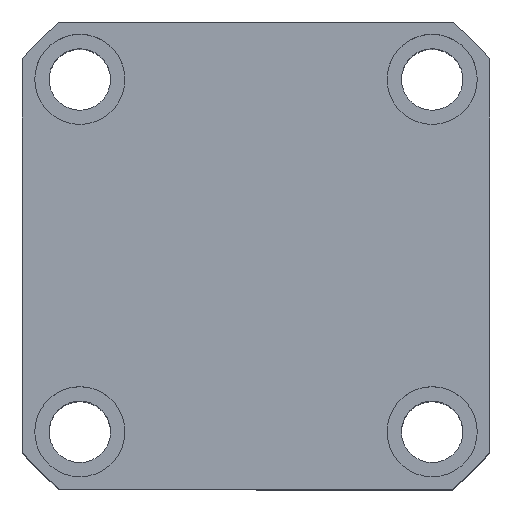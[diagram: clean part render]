
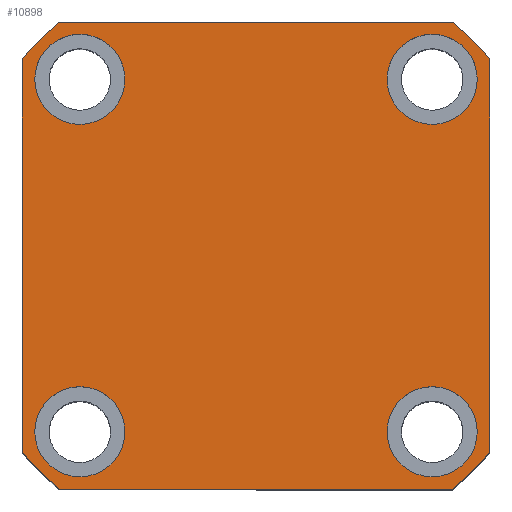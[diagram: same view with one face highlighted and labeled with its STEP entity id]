
A CAD part, top view. The second image highlights one B-rep face of the part: STEP entity #10898.
In plain terms, the highlighted planar face has unit normal (0, 0, 1) as drawn and (0, 0, -1) by its records, which use the part's own axes.
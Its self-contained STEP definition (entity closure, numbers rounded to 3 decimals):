
#315 = DIRECTION ( 'NONE',  ( 1., 0., 0. ) ) ;
#424 = CIRCLE ( 'NONE', #15282, 74.5 ) ;
#705 = ORIENTED_EDGE ( 'NONE', *, *, #17867, .F. ) ;
#1118 = ORIENTED_EDGE ( 'NONE', *, *, #19716, .F. ) ;
#1220 = CARTESIAN_POINT ( 'NONE',  ( 43., -43., 0. ) ) ;
#1296 = ORIENTED_EDGE ( 'NONE', *, *, #17009, .F. ) ;
#1368 = EDGE_CURVE ( 'NONE', #20070, #15002, #9593, .T. ) ;
#2003 = VERTEX_POINT ( 'NONE', #4271 ) ;
#2228 = DIRECTION ( 'NONE',  ( 0., 0., -1. ) ) ;
#2655 = VECTOR ( 'NONE', #17949, 1000. ) ;
#2656 = VERTEX_POINT ( 'NONE', #20113 ) ;
#2750 = CARTESIAN_POINT ( 'NONE',  ( 43., 43., 0. ) ) ;
#2751 = ORIENTED_EDGE ( 'NONE', *, *, #4237, .F. ) ;
#2793 = DIRECTION ( 'NONE',  ( -1., 0., 0. ) ) ;
#2814 = PLANE ( 'NONE',  #18406 ) ;
#2829 = CARTESIAN_POINT ( 'NONE',  ( 32., 43., 0. ) ) ;
#2890 = CARTESIAN_POINT ( 'NONE',  ( 0., 0., 0. ) ) ;
#2978 = DIRECTION ( 'NONE',  ( 0., 0., -1. ) ) ;
#3083 = CARTESIAN_POINT ( 'NONE',  ( -32., -43., 0. ) ) ;
#3254 = ORIENTED_EDGE ( 'NONE', *, *, #12681, .F. ) ;
#3384 = CIRCLE ( 'NONE', #10992, 11. ) ;
#3747 = VERTEX_POINT ( 'NONE', #11838 ) ;
#4218 = EDGE_CURVE ( 'NONE', #10065, #17433, #12757, .T. ) ;
#4237 = EDGE_CURVE ( 'NONE', #13722, #2656, #8528, .T. ) ;
#4271 = CARTESIAN_POINT ( 'NONE',  ( -54., 43., 0. ) ) ;
#4316 = DIRECTION ( 'NONE',  ( -1., 0., 0. ) ) ;
#4330 = DIRECTION ( 'NONE',  ( 0., 1., 0. ) ) ;
#4360 = CARTESIAN_POINT ( 'NONE',  ( -54., -43., 0. ) ) ;
#4407 = DIRECTION ( 'NONE',  ( 0., 0., -1. ) ) ;
#4470 = DIRECTION ( 'NONE',  ( 1., 0., 0. ) ) ;
#4532 = DIRECTION ( 'NONE',  ( 1., 0., 0. ) ) ;
#4845 = CIRCLE ( 'NONE', #16551, 74.5 ) ;
#4928 = AXIS2_PLACEMENT_3D ( 'NONE', #13857, #4407, #15447 ) ;
#5037 = ORIENTED_EDGE ( 'NONE', *, *, #18066, .F. ) ;
#5116 = LINE ( 'NONE', #18286, #10813 ) ;
#5171 = CARTESIAN_POINT ( 'NONE',  ( -57., -57., 0. ) ) ;
#5192 = DIRECTION ( 'NONE',  ( 0., 0., 1. ) ) ;
#5366 = CARTESIAN_POINT ( 'NONE',  ( 32., -43., 0. ) ) ;
#5458 = DIRECTION ( 'NONE',  ( 0., 0., -1. ) ) ;
#6111 = FACE_BOUND ( 'NONE', #18898, .T. ) ;
#6135 = CARTESIAN_POINT ( 'NONE',  ( -47.971, -57., 0. ) ) ;
#6315 = CARTESIAN_POINT ( 'NONE',  ( 0., 0., 0. ) ) ;
#6406 = ORIENTED_EDGE ( 'NONE', *, *, #11753, .F. ) ;
#6764 = EDGE_CURVE ( 'NONE', #13753, #3747, #11881, .T. ) ;
#6810 = LINE ( 'NONE', #5171, #2655 ) ;
#7609 = CARTESIAN_POINT ( 'NONE',  ( 0., 0., 0. ) ) ;
#7873 = CARTESIAN_POINT ( 'NONE',  ( -47.971, 57., 0. ) ) ;
#7879 = DIRECTION ( 'NONE',  ( 1., 0., 0. ) ) ;
#8043 = EDGE_CURVE ( 'NONE', #18812, #13753, #19805, .T. ) ;
#8093 = EDGE_CURVE ( 'NONE', #16054, #2003, #19317, .T. ) ;
#8147 = DIRECTION ( 'NONE',  ( 0., 0., -1. ) ) ;
#8528 = LINE ( 'NONE', #16968, #12263 ) ;
#8810 = EDGE_LOOP ( 'NONE', ( #17960, #16888 ) ) ;
#8983 = ORIENTED_EDGE ( 'NONE', *, *, #8093, .F. ) ;
#9340 = CARTESIAN_POINT ( 'NONE',  ( -32., 43., 0. ) ) ;
#9472 = ORIENTED_EDGE ( 'NONE', *, *, #10756, .F. ) ;
#9593 = CIRCLE ( 'NONE', #11427, 11. ) ;
#9734 = DIRECTION ( 'NONE',  ( 0., 0., 1. ) ) ;
#9800 = AXIS2_PLACEMENT_3D ( 'NONE', #14647, #5192, #16237 ) ;
#9919 = EDGE_CURVE ( 'NONE', #19133, #18812, #5116, .T. ) ;
#10065 = VERTEX_POINT ( 'NONE', #2829 ) ;
#10159 = VERTEX_POINT ( 'NONE', #6135 ) ;
#10281 = FACE_BOUND ( 'NONE', #13527, .T. ) ;
#10304 = DIRECTION ( 'NONE',  ( -1., 0., 0. ) ) ;
#10509 = CIRCLE ( 'NONE', #13248, 11. ) ;
#10756 = EDGE_CURVE ( 'NONE', #17433, #10065, #3384, .T. ) ;
#10813 = VECTOR ( 'NONE', #15106, 1000. ) ;
#10898 = ADVANCED_FACE ( 'NONE', ( #10281, #14990, #18721, #6111, #19216 ), #2814, .F. ) ;
#10953 = ORIENTED_EDGE ( 'NONE', *, *, #4218, .F. ) ;
#10992 = AXIS2_PLACEMENT_3D ( 'NONE', #2750, #13771, #4316 ) ;
#11032 = CARTESIAN_POINT ( 'NONE',  ( 47.971, 57., 0. ) ) ;
#11118 = EDGE_CURVE ( 'NONE', #15002, #20070, #11998, .T. ) ;
#11136 = VERTEX_POINT ( 'NONE', #4360 ) ;
#11391 = VECTOR ( 'NONE', #11744, 1000. ) ;
#11427 = AXIS2_PLACEMENT_3D ( 'NONE', #15144, #16043, #10304 ) ;
#11657 = CARTESIAN_POINT ( 'NONE',  ( -43., -43., 0. ) ) ;
#11744 = DIRECTION ( 'NONE',  ( 0., -1., 0. ) ) ;
#11753 = EDGE_CURVE ( 'NONE', #18231, #13722, #4845, .T. ) ;
#11764 = VERTEX_POINT ( 'NONE', #3083 ) ;
#11838 = CARTESIAN_POINT ( 'NONE',  ( -57., -47.971, 0. ) ) ;
#11881 = LINE ( 'NONE', #15079, #11391 ) ;
#11998 = CIRCLE ( 'NONE', #12706, 11. ) ;
#12016 = EDGE_CURVE ( 'NONE', #3747, #10159, #19681, .T. ) ;
#12144 = EDGE_LOOP ( 'NONE', ( #10953, #9472 ) ) ;
#12213 = DIRECTION ( 'NONE',  ( 0., 0., -1. ) ) ;
#12263 = VECTOR ( 'NONE', #4330, 1000. ) ;
#12418 = CARTESIAN_POINT ( 'NONE',  ( -43., 43., 0. ) ) ;
#12681 = EDGE_CURVE ( 'NONE', #11136, #11764, #10509, .T. ) ;
#12706 = AXIS2_PLACEMENT_3D ( 'NONE', #1220, #12213, #2793 ) ;
#12757 = CIRCLE ( 'NONE', #4928, 11. ) ;
#12918 = AXIS2_PLACEMENT_3D ( 'NONE', #19227, #9734, #315 ) ;
#13248 = AXIS2_PLACEMENT_3D ( 'NONE', #11657, #2228, #13253 ) ;
#13253 = DIRECTION ( 'NONE',  ( -1., 0., 0. ) ) ;
#13527 = EDGE_LOOP ( 'NONE', ( #3254, #5037 ) ) ;
#13597 = ORIENTED_EDGE ( 'NONE', *, *, #12016, .F. ) ;
#13722 = VERTEX_POINT ( 'NONE', #14240 ) ;
#13753 = VERTEX_POINT ( 'NONE', #15833 ) ;
#13771 = DIRECTION ( 'NONE',  ( 0., 0., -1. ) ) ;
#13857 = CARTESIAN_POINT ( 'NONE',  ( 43., 43., 0. ) ) ;
#13922 = DIRECTION ( 'NONE',  ( 0., 0., 1. ) ) ;
#13965 = ORIENTED_EDGE ( 'NONE', *, *, #6764, .F. ) ;
#13975 = DIRECTION ( 'NONE',  ( 0., 0., 1. ) ) ;
#13987 = AXIS2_PLACEMENT_3D ( 'NONE', #14635, #5458, #16505 ) ;
#14002 = CARTESIAN_POINT ( 'NONE',  ( 54., -43., 0. ) ) ;
#14006 = DIRECTION ( 'NONE',  ( -1., 0., 0. ) ) ;
#14240 = CARTESIAN_POINT ( 'NONE',  ( 57., -47.971, 0. ) ) ;
#14348 = ORIENTED_EDGE ( 'NONE', *, *, #9919, .F. ) ;
#14635 = CARTESIAN_POINT ( 'NONE',  ( -43., 43., 0. ) ) ;
#14647 = CARTESIAN_POINT ( 'NONE',  ( 0., 0., 0. ) ) ;
#14990 = FACE_BOUND ( 'NONE', #8810, .T. ) ;
#15002 = VERTEX_POINT ( 'NONE', #5366 ) ;
#15079 = CARTESIAN_POINT ( 'NONE',  ( -57., 57., 0. ) ) ;
#15106 = DIRECTION ( 'NONE',  ( -1., 0., 0. ) ) ;
#15144 = CARTESIAN_POINT ( 'NONE',  ( 43., -43., 0. ) ) ;
#15282 = AXIS2_PLACEMENT_3D ( 'NONE', #2890, #13922, #4470 ) ;
#15447 = DIRECTION ( 'NONE',  ( -1., 0., 0. ) ) ;
#15599 = CARTESIAN_POINT ( 'NONE',  ( 54., 43., 0. ) ) ;
#15833 = CARTESIAN_POINT ( 'NONE',  ( -57., 47.971, 0. ) ) ;
#16043 = DIRECTION ( 'NONE',  ( 0., 0., -1. ) ) ;
#16054 = VERTEX_POINT ( 'NONE', #9340 ) ;
#16201 = CIRCLE ( 'NONE', #17421, 11. ) ;
#16237 = DIRECTION ( 'NONE',  ( 1., 0., 0. ) ) ;
#16505 = DIRECTION ( 'NONE',  ( -1., 0., 0. ) ) ;
#16551 = AXIS2_PLACEMENT_3D ( 'NONE', #6315, #17385, #7879 ) ;
#16888 = ORIENTED_EDGE ( 'NONE', *, *, #1368, .F. ) ;
#16968 = CARTESIAN_POINT ( 'NONE',  ( 57., 57., 0. ) ) ;
#17009 = EDGE_CURVE ( 'NONE', #10159, #18231, #6810, .T. ) ;
#17385 = DIRECTION ( 'NONE',  ( 0., 0., 1. ) ) ;
#17421 = AXIS2_PLACEMENT_3D ( 'NONE', #17647, #8147, #19252 ) ;
#17433 = VERTEX_POINT ( 'NONE', #15599 ) ;
#17647 = CARTESIAN_POINT ( 'NONE',  ( -43., -43., 0. ) ) ;
#17867 = EDGE_CURVE ( 'NONE', #2656, #19133, #424, .T. ) ;
#17949 = DIRECTION ( 'NONE',  ( 1., 0., 0. ) ) ;
#17960 = ORIENTED_EDGE ( 'NONE', *, *, #11118, .F. ) ;
#18066 = EDGE_CURVE ( 'NONE', #11764, #11136, #16201, .T. ) ;
#18149 = ORIENTED_EDGE ( 'NONE', *, *, #8043, .F. ) ;
#18231 = VERTEX_POINT ( 'NONE', #18819 ) ;
#18286 = CARTESIAN_POINT ( 'NONE',  ( -57., 57., 0. ) ) ;
#18406 = AXIS2_PLACEMENT_3D ( 'NONE', #7609, #13975, #4532 ) ;
#18721 = FACE_BOUND ( 'NONE', #12144, .T. ) ;
#18764 = EDGE_LOOP ( 'NONE', ( #705, #2751, #6406, #1296, #13597, #13965, #18149, #14348 ) ) ;
#18812 = VERTEX_POINT ( 'NONE', #7873 ) ;
#18819 = CARTESIAN_POINT ( 'NONE',  ( 47.971, -57., 0. ) ) ;
#18898 = EDGE_LOOP ( 'NONE', ( #1118, #8983 ) ) ;
#19133 = VERTEX_POINT ( 'NONE', #11032 ) ;
#19216 = FACE_OUTER_BOUND ( 'NONE', #18764, .T. ) ;
#19227 = CARTESIAN_POINT ( 'NONE',  ( 0., 0., 0. ) ) ;
#19252 = DIRECTION ( 'NONE',  ( -1., 0., 0. ) ) ;
#19301 = AXIS2_PLACEMENT_3D ( 'NONE', #12418, #2978, #14006 ) ;
#19317 = CIRCLE ( 'NONE', #13987, 11. ) ;
#19435 = CIRCLE ( 'NONE', #19301, 11. ) ;
#19681 = CIRCLE ( 'NONE', #9800, 74.5 ) ;
#19716 = EDGE_CURVE ( 'NONE', #2003, #16054, #19435, .T. ) ;
#19805 = CIRCLE ( 'NONE', #12918, 74.5 ) ;
#20070 = VERTEX_POINT ( 'NONE', #14002 ) ;
#20113 = CARTESIAN_POINT ( 'NONE',  ( 57., 47.971, 0. ) ) ;
